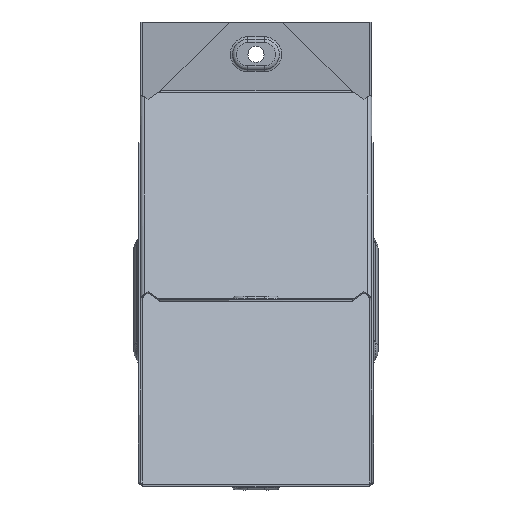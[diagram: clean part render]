
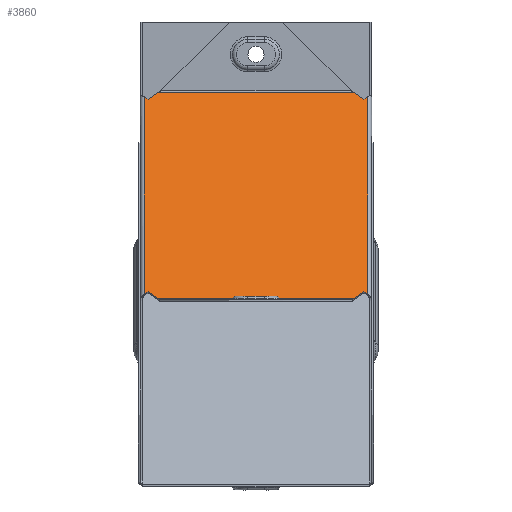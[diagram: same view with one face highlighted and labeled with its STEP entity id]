
A CAD part, front view. The second image highlights one B-rep face of the part: STEP entity #3860.
In plain terms, the highlighted planar face has unit normal (0, -0.707, 0.707).
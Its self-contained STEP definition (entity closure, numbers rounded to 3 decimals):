
#253 = ORIENTED_EDGE ( 'NONE', *, *, #6548, .T. ) ;
#326 = CARTESIAN_POINT ( 'NONE',  ( -42.181, -29.707, -59.707 ) ) ;
#449 = EDGE_CURVE ( 'NONE', #2437, #7063, #6134, .T. ) ;
#565 = DIRECTION ( 'NONE',  ( -1., 0., 0. ) ) ;
#605 = LINE ( 'NONE', #6636, #5495 ) ;
#654 = CARTESIAN_POINT ( 'NONE',  ( 48.2, -29.707, -59.707 ) ) ;
#809 = CARTESIAN_POINT ( 'NONE',  ( 42.181, 59.707, 29.707 ) ) ;
#875 = LINE ( 'NONE', #5643, #5157 ) ;
#994 = CARTESIAN_POINT ( 'NONE',  ( 46.592, 56.588, 26.588 ) ) ;
#1111 = CARTESIAN_POINT ( 'NONE',  ( -48.2, -27.724, -57.724 ) ) ;
#1216 = CARTESIAN_POINT ( 'NONE',  ( 48.2, 57.724, 27.724 ) ) ;
#1274 = VERTEX_POINT ( 'NONE', #1111 ) ;
#1311 = VERTEX_POINT ( 'NONE', #1216 ) ;
#1365 = VERTEX_POINT ( 'NONE', #3189 ) ;
#1366 = CARTESIAN_POINT ( 'NONE',  ( -48.2, 60., 30. ) ) ;
#1378 = CARTESIAN_POINT ( 'NONE',  ( 50.299, 59.208, 29.208 ) ) ;
#1400 = LINE ( 'NONE', #4873, #6098 ) ;
#1572 = DIRECTION ( 'NONE',  ( 0., 0.707, 0.707 ) ) ;
#1703 = LINE ( 'NONE', #2843, #3087 ) ;
#1966 = LINE ( 'NONE', #1366, #4045 ) ;
#2042 = EDGE_CURVE ( 'NONE', #1274, #5749, #6510, .T. ) ;
#2132 = CARTESIAN_POINT ( 'NONE',  ( 11.546, -51.369, -81.369 ) ) ;
#2164 = VECTOR ( 'NONE', #5163, 1000. ) ;
#2237 = DIRECTION ( 'NONE',  ( 0.707, 0.5, 0.5 ) ) ;
#2437 = VERTEX_POINT ( 'NONE', #6717 ) ;
#2783 = DIRECTION ( 'NONE',  ( 0.707, 0.5, 0.5 ) ) ;
#2805 = EDGE_LOOP ( 'NONE', ( #3253, #6628, #5083, #7622, #6734, #6696, #7212, #253, #4376, #5355, #5933, #6434 ) ) ;
#2843 = CARTESIAN_POINT ( 'NONE',  ( 48.2, 59.707, 29.707 ) ) ;
#3087 = VECTOR ( 'NONE', #7393, 1000. ) ;
#3146 = EDGE_CURVE ( 'NONE', #3744, #3836, #3196, .T. ) ;
#3189 = CARTESIAN_POINT ( 'NONE',  ( -46.592, 56.588, 26.588 ) ) ;
#3196 = LINE ( 'NONE', #3234, #6289 ) ;
#3216 = FACE_OUTER_BOUND ( 'NONE', #2805, .T. ) ;
#3234 = CARTESIAN_POINT ( 'NONE',  ( 50.299, -29.208, -59.208 ) ) ;
#3253 = ORIENTED_EDGE ( 'NONE', *, *, #6894, .T. ) ;
#3298 = EDGE_CURVE ( 'NONE', #1365, #4287, #605, .T. ) ;
#3617 = VECTOR ( 'NONE', #7864, 1000. ) ;
#3744 = VERTEX_POINT ( 'NONE', #3963 ) ;
#3830 = VECTOR ( 'NONE', #565, 1000. ) ;
#3836 = VERTEX_POINT ( 'NONE', #7947 ) ;
#3860 = ADVANCED_FACE ( 'NONE', ( #3216 ), #6564, .F. ) ;
#3868 = EDGE_CURVE ( 'NONE', #6540, #1365, #5813, .T. ) ;
#3963 = CARTESIAN_POINT ( 'NONE',  ( 46.592, -26.588, -56.588 ) ) ;
#4045 = VECTOR ( 'NONE', #4479, 1000. ) ;
#4256 = VECTOR ( 'NONE', #7133, 1000. ) ;
#4287 = VERTEX_POINT ( 'NONE', #4626 ) ;
#4376 = ORIENTED_EDGE ( 'NONE', *, *, #449, .F. ) ;
#4479 = DIRECTION ( 'NONE',  ( 0., -0.707, -0.707 ) ) ;
#4560 = EDGE_CURVE ( 'NONE', #1311, #3836, #1400, .T. ) ;
#4626 = CARTESIAN_POINT ( 'NONE',  ( -48.2, 57.724, 27.724 ) ) ;
#4873 = CARTESIAN_POINT ( 'NONE',  ( 48.2, 60., 30. ) ) ;
#4937 = VERTEX_POINT ( 'NONE', #994 ) ;
#4982 = EDGE_CURVE ( 'NONE', #6217, #6540, #1703, .T. ) ;
#5083 = ORIENTED_EDGE ( 'NONE', *, *, #4982, .T. ) ;
#5157 = VECTOR ( 'NONE', #6868, 1000. ) ;
#5163 = DIRECTION ( 'NONE',  ( -0.707, 0.5, 0.5 ) ) ;
#5185 = CARTESIAN_POINT ( 'NONE',  ( 11.546, 81.369, 51.369 ) ) ;
#5337 = CARTESIAN_POINT ( 'NONE',  ( 48.2, 60., 30. ) ) ;
#5355 = ORIENTED_EDGE ( 'NONE', *, *, #6360, .T. ) ;
#5468 = VECTOR ( 'NONE', #2237, 1000. ) ;
#5495 = VECTOR ( 'NONE', #5963, 1000. ) ;
#5556 = LINE ( 'NONE', #5185, #2164 ) ;
#5643 = CARTESIAN_POINT ( 'NONE',  ( -11.546, -51.369, -81.369 ) ) ;
#5749 = VERTEX_POINT ( 'NONE', #7765 ) ;
#5813 = LINE ( 'NONE', #6037, #3617 ) ;
#5933 = ORIENTED_EDGE ( 'NONE', *, *, #3146, .T. ) ;
#5963 = DIRECTION ( 'NONE',  ( -0.707, 0.5, 0.5 ) ) ;
#6037 = CARTESIAN_POINT ( 'NONE',  ( -11.546, 81.369, 51.369 ) ) ;
#6098 = VECTOR ( 'NONE', #6858, 1000. ) ;
#6134 = LINE ( 'NONE', #654, #3830 ) ;
#6217 = VERTEX_POINT ( 'NONE', #809 ) ;
#6248 = CARTESIAN_POINT ( 'NONE',  ( -42.181, 59.707, 29.707 ) ) ;
#6289 = VECTOR ( 'NONE', #7143, 1000. ) ;
#6360 = EDGE_CURVE ( 'NONE', #2437, #3744, #7166, .T. ) ;
#6434 = ORIENTED_EDGE ( 'NONE', *, *, #4560, .F. ) ;
#6510 = LINE ( 'NONE', #6614, #7016 ) ;
#6540 = VERTEX_POINT ( 'NONE', #6248 ) ;
#6548 = EDGE_CURVE ( 'NONE', #5749, #7063, #875, .T. ) ;
#6564 = PLANE ( 'NONE',  #7666 ) ;
#6614 = CARTESIAN_POINT ( 'NONE',  ( -50.299, -29.208, -59.208 ) ) ;
#6628 = ORIENTED_EDGE ( 'NONE', *, *, #7459, .T. ) ;
#6636 = CARTESIAN_POINT ( 'NONE',  ( -50.299, 59.208, 29.208 ) ) ;
#6696 = ORIENTED_EDGE ( 'NONE', *, *, #7482, .T. ) ;
#6717 = CARTESIAN_POINT ( 'NONE',  ( 42.181, -29.707, -59.707 ) ) ;
#6734 = ORIENTED_EDGE ( 'NONE', *, *, #3298, .T. ) ;
#6753 = LINE ( 'NONE', #1378, #4256 ) ;
#6858 = DIRECTION ( 'NONE',  ( 0., -0.707, -0.707 ) ) ;
#6868 = DIRECTION ( 'NONE',  ( 0.707, -0.5, -0.5 ) ) ;
#6894 = EDGE_CURVE ( 'NONE', #1311, #4937, #6753, .T. ) ;
#7016 = VECTOR ( 'NONE', #2783, 1000. ) ;
#7063 = VERTEX_POINT ( 'NONE', #326 ) ;
#7133 = DIRECTION ( 'NONE',  ( -0.707, -0.5, -0.5 ) ) ;
#7143 = DIRECTION ( 'NONE',  ( 0.707, -0.5, -0.5 ) ) ;
#7166 = LINE ( 'NONE', #2132, #5468 ) ;
#7211 = DIRECTION ( 'NONE',  ( 0., 0.707, -0.707 ) ) ;
#7212 = ORIENTED_EDGE ( 'NONE', *, *, #2042, .T. ) ;
#7393 = DIRECTION ( 'NONE',  ( -1., 0., 0. ) ) ;
#7459 = EDGE_CURVE ( 'NONE', #4937, #6217, #5556, .T. ) ;
#7482 = EDGE_CURVE ( 'NONE', #4287, #1274, #1966, .T. ) ;
#7622 = ORIENTED_EDGE ( 'NONE', *, *, #3868, .T. ) ;
#7666 = AXIS2_PLACEMENT_3D ( 'NONE', #5337, #7211, #1572 ) ;
#7765 = CARTESIAN_POINT ( 'NONE',  ( -46.592, -26.588, -56.588 ) ) ;
#7864 = DIRECTION ( 'NONE',  ( -0.707, -0.5, -0.5 ) ) ;
#7947 = CARTESIAN_POINT ( 'NONE',  ( 48.2, -27.724, -57.724 ) ) ;
